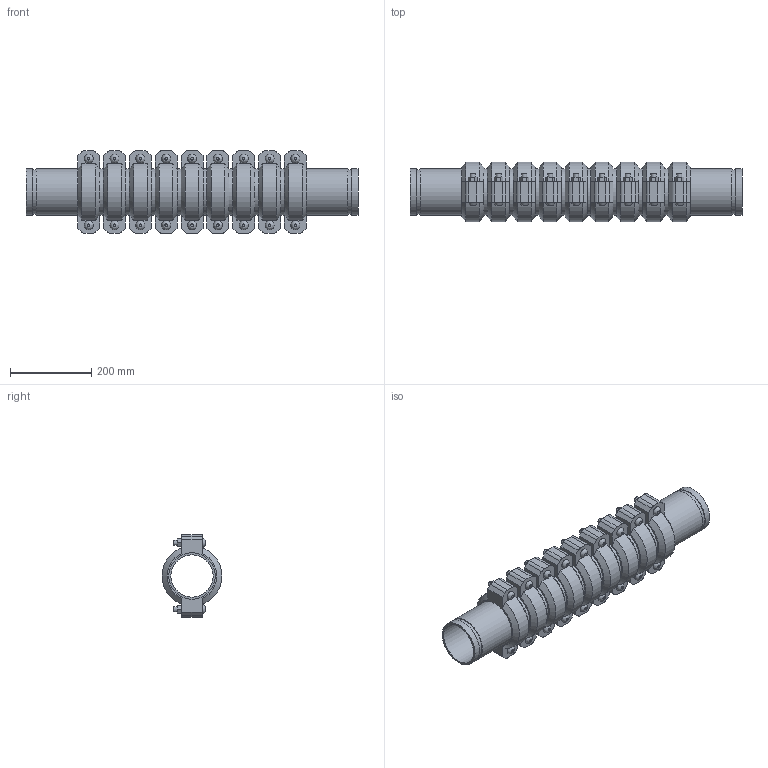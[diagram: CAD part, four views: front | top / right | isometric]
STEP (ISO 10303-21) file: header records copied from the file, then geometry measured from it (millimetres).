
FILE_DESCRIPTION(/* description */ ('VIC SS EXPANSION JOINT 9 COUPLINGS NEUTRAL STYLE 155P (OGS) (POTABLE WATER) ','CAx-IF Rec.Pracs.---Representation and Presentation of Product Manufacturing Information (PMI)---4.0---2014-10-13'),/* implementation_level */ '2;1');
FILE_NAME(/* name */ 'C:\Users\kkamble\AppData\Roaming\Autodesk\ApplicationPlugins\Victaulic.Temp\A561\Victaulic_SS_Expansion Joint_Neutral_9 Couplings_Style 155P (OGS)-Potable Water_9 Coup_Neut_4 (100).stp',/* time_stamp */ '2021-07-16T16:40:02+05:00',/* author */ ('kkamble'),/* organization */ ('Victaulic'),/* preprocessor_version */ 'ST-DEVELOPER v17.2',/* originating_system */ 'Autodesk Inventor 2019',/* authorisation */ '');
FILE_SCHEMA (('AP242_MANAGED_MODEL_BASED_3D_ENGINEERING_MIM_LF { 1 0 10303 442 1 1 4 }'));
Length unit declared in the file: inch
Products named in the file (4): 155P-04.0; Nipple-04.0; Nipple-04.0_1; 075-04.0
Assembly tree (19 placements, depth 2):
  155P-04.0
    Nipple-04.0  x2
    Nipple-04.0_1  x8
    075-04.0  x9
Bounding box: 816.36 x 147.32 x 203.96 mm (x, y, z)
Volume: 5602726.8 mm3; surface area: 1305000.6 mm2
Topology: 19 solids, 37 shells, 633 faces, 1497 edges, 1050 vertices
Faces by surface type: plane 384, cylinder 195, cone 36, bspline 18
Full cylindrical faces by diameter (mm): 12.7 x36, 14.605 x18, 103.988 x10, 107.95 x9, 110.084 x20, 114.3 x48
Entity records: 2865 total; most frequent: CARTESIAN_POINT 503, DIRECTION 481, ORIENTED_EDGE 386, AXIS2_PLACEMENT_3D 194, EDGE_CURVE 193, VERTEX_POINT 138, EDGE_LOOP 107, LINE 93
